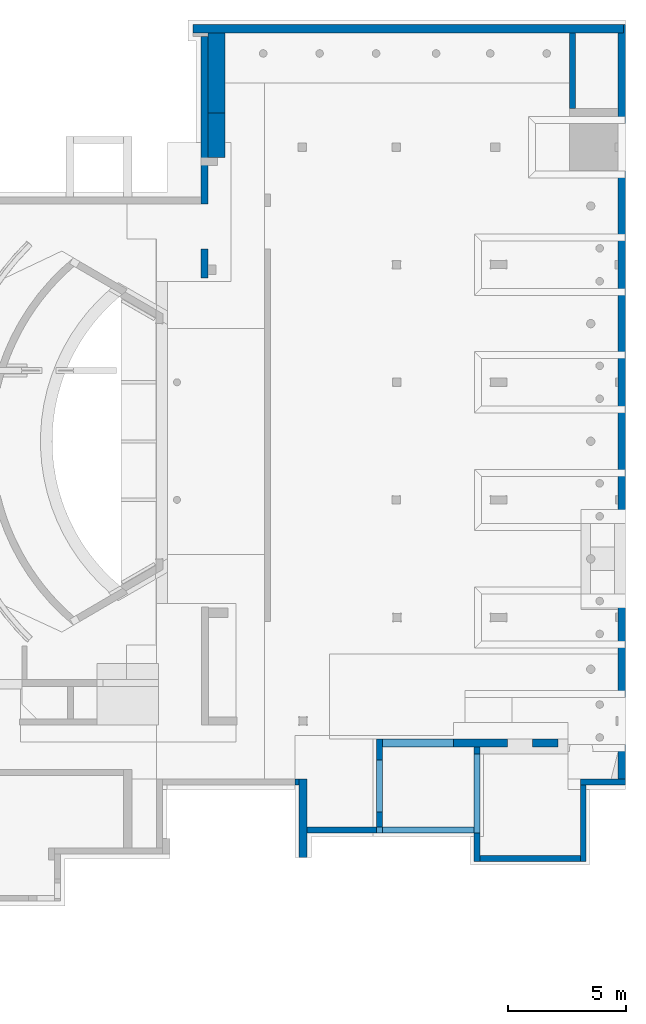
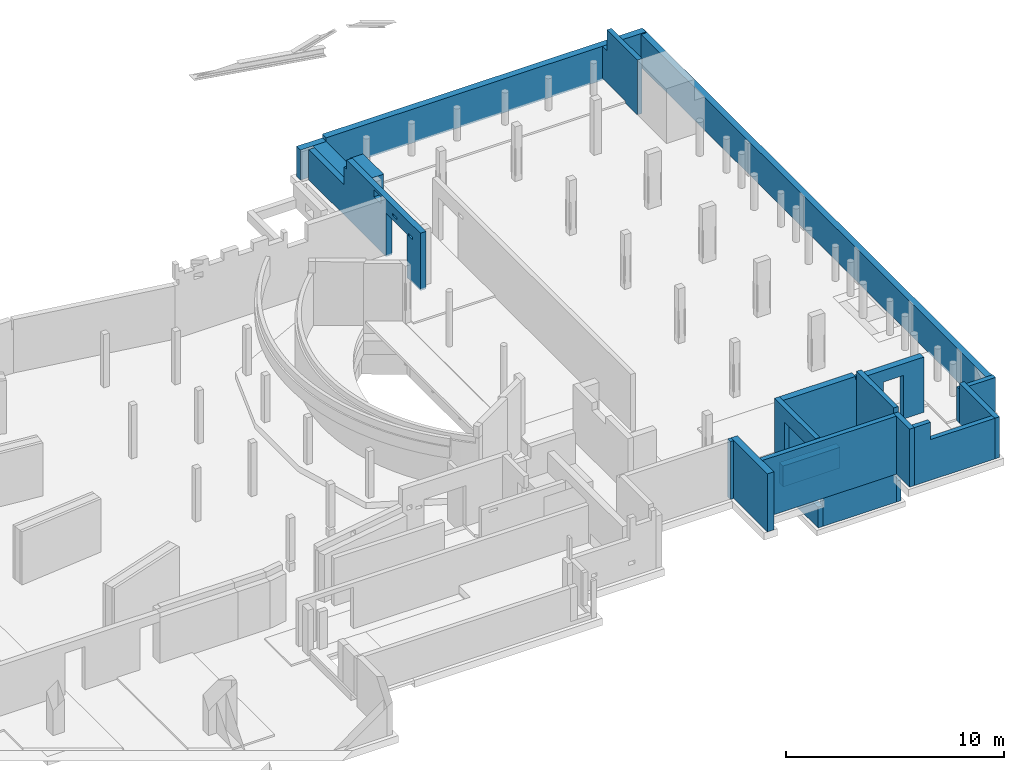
# One storey, part 35 of 42: 19 walls, 10 openings.
"""IFC2X3 building model written with IfcOpenShell, lengths in millimetres."""

from ifc_helpers import new_model, entity, si_unit, converted_unit, derived_unit, direction, frame, frame_2d, origin, place, context, subcontext, project, spatial, polyline, rectangle, outline, extrude, clip, bounded_halfspace, material, layer, layer_set, layer_usage, type_object, element, save


model = new_model("IFC2X3")

# Units and contexts
model_context = context("Model", 3, precision=0.01, world=origin(), true_north=direction((6.12303176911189e-17, 1.0)))
body_context = subcontext(model_context, "Body", "Model", "MODEL_VIEW")
ifc_project = project(units=[si_unit("LENGTHUNIT", "METRE", prefix="MILLI"), si_unit("AREAUNIT", "SQUARE_METRE", prefix="MILLI"), si_unit("VOLUMEUNIT", "CUBIC_METRE"), converted_unit("PLANEANGLEUNIT", "DEGREE", entity("IfcRatioMeasure", 0.0174532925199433), si_unit("PLANEANGLEUNIT", "RADIAN"), dimensions=[0, 0, 0, 0, 0, 0, 0]), si_unit("MASSUNIT", "GRAM", prefix="KILO"), derived_unit("MASSDENSITYUNIT", [(si_unit("MASSUNIT", "GRAM", prefix="KILO"), 1), (si_unit("LENGTHUNIT", "METRE"), -3)]), derived_unit("MOMENTOFINERTIAUNIT", [(si_unit("LENGTHUNIT", "METRE"), 4)]), si_unit("TIMEUNIT", "SECOND"), si_unit("FREQUENCYUNIT", "HERTZ"), si_unit("THERMODYNAMICTEMPERATUREUNIT", "DEGREE_CELSIUS"), derived_unit("THERMALTRANSMITTANCEUNIT", [(si_unit("MASSUNIT", "GRAM", prefix="KILO"), 1), (si_unit("THERMODYNAMICTEMPERATUREUNIT", "KELVIN"), -1), (si_unit("TIMEUNIT", "SECOND"), -3)]), derived_unit("VOLUMETRICFLOWRATEUNIT", [(si_unit("LENGTHUNIT", "METRE"), 3), (si_unit("TIMEUNIT", "SECOND"), -1)]), si_unit("ELECTRICCURRENTUNIT", "AMPERE"), si_unit("ELECTRICVOLTAGEUNIT", "VOLT"), si_unit("POWERUNIT", "WATT"), si_unit("FORCEUNIT", "NEWTON", prefix="KILO"), si_unit("ILLUMINANCEUNIT", "LUX"), si_unit("LUMINOUSFLUXUNIT", "LUMEN"), si_unit("LUMINOUSINTENSITYUNIT", "CANDELA"), derived_unit("USERDEFINED", [(si_unit("MASSUNIT", "GRAM", prefix="KILO"), -1), (si_unit("LENGTHUNIT", "METRE"), -2), (si_unit("TIMEUNIT", "SECOND"), 3), (si_unit("LUMINOUSFLUXUNIT", "LUMEN"), 1)]), derived_unit("LINEARVELOCITYUNIT", [(si_unit("LENGTHUNIT", "METRE"), 1), (si_unit("TIMEUNIT", "SECOND"), -1)]), si_unit("PRESSUREUNIT", "PASCAL"), derived_unit("USERDEFINED", [(si_unit("LENGTHUNIT", "METRE"), -2), (si_unit("MASSUNIT", "GRAM", prefix="KILO"), 1), (si_unit("TIMEUNIT", "SECOND"), -2)]), derived_unit("LINEARFORCEUNIT", [(si_unit("MASSUNIT", "GRAM", prefix="KILO"), 1), (si_unit("LENGTHUNIT", "METRE"), 1), (si_unit("TIMEUNIT", "SECOND"), -2), (si_unit("LENGTHUNIT", "METRE"), -1)]), derived_unit("PLANARFORCEUNIT", [(si_unit("MASSUNIT", "GRAM", prefix="KILO"), 1), (si_unit("LENGTHUNIT", "METRE"), 1), (si_unit("TIMEUNIT", "SECOND"), -2), (si_unit("LENGTHUNIT", "METRE"), -2)])], contexts=[model_context])

# Site, building, storey
site_placement = place(None, origin())
site = spatial("IfcSite", under=ifc_project, at=site_placement, Name="Theater aan de Parade", CompositionType="ELEMENT")
building_placement = place(site_placement, origin())
building = spatial("IfcBuilding", under=site, at=building_placement, Name="Theater aan de Parade", CompositionType="ELEMENT")
storey_placement = place(building_placement, frame((0.0, 0.0, -3300.0)))
storey = spatial("IfcBuildingStorey", under=building, at=storey_placement, Name="-1 kelder", CompositionType="ELEMENT", Elevation=-3300.0)

# Wall
ifc_material_1 = material(Name="00_PBT_MAT_beton t.p.g.")
ifc_layer_1 = layer(ifc_material_1, 320.0)
ifc_layer_set_1 = layer_set([ifc_layer_1], Name="Basic Wall:16_PBT_WA_beton t.p.g._d=320_bestaand")
ifc_layer_usage_1 = layer_usage(ifc_layer_set_1, "AXIS2", "POSITIVE", -160.0)
wall_type_1 = type_object("IfcWallType", Name="Basic Wall:16_PBT_WA_beton t.p.g._d=320_bestaand", PredefinedType="STANDARD", material=ifc_layer_set_1)
wall_1_placement = place(storey_placement, frame((88520.0, 18105.0, 660.0), z_axis=(0.0, 0.0, 1.0), x_axis=(0.0, 1.0, 0.0)))
element("IfcWallStandardCase", 1, at=wall_1_placement, inside=storey, type_object=wall_type_1, material=ifc_layer_usage_1, Name="Basic Wall:16_PBT_WA_beton t.p.g._d=320_bestaand", ObjectType="Basic Wall:16_PBT_WA_beton t.p.g._d=320_bestaand", context=body_context, shape_type="Clipping", body=[
    clip(clip(extrude(rectangle(XDim=32065.0000000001, YDim=319.999999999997, at=frame_2d((16032.5, -2.06057393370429e-12), x_axis=(-1.0, 0.0))), origin(), (0.0, 0.0, 1.0), 1840.0), bounded_halfspace(frame((31715.0, -90.0, 1840.0), z_axis=(-1.0, 0.0, 0.0), x_axis=(0.0, -1.0, 0.0)), True, frame((31715.0, -90.0, 1840.0), z_axis=(-1.0, 0.0, 0.0), x_axis=(0.0, -1.0, 0.0)), polyline([(0.0, 0.0), (-250.0, 0.0), (-250.0, -1840.0), (0.0, -1840.0), (0.0, 0.0)]))), bounded_halfspace(frame((31715.0, -90.0, 0.0), z_axis=(0.0, -1.0, 0.0), x_axis=(1.0, 0.0, 0.0)), True, frame((31715.0, -90.0, 0.0), z_axis=(0.0, -1.0, 0.0), x_axis=(1.0, 0.0, 0.0)), polyline([(0.0, 0.0), (350.0, 0.0), (350.0, 1840.0), (280.0, 1840.0), (0.0, 1840.0), (0.0, 0.0)]))),
])

# Wall, openings
ifc_layer_2 = layer(ifc_material_1, 300.0)
ifc_layer_set_2 = layer_set([ifc_layer_2], Name="Basic Wall:16_PBT_WA_beton t.p.g._d=300_bestaand")
ifc_layer_usage_2 = layer_usage(ifc_layer_set_2, "AXIS2", "NEGATIVE", 150.0)
wall_type_2 = type_object("IfcWallType", Name="Basic Wall:16_PBT_WA_beton t.p.g._d=300_bestaand", PredefinedType="STANDARD", material=ifc_layer_set_2)
wall_2_placement = place(storey_placement, frame((70790.0, 49670.0, 660.0), z_axis=(0.0, 0.0, 1.0), x_axis=(0.0, -1.0, 0.0)))
wall_2 = element("IfcWallStandardCase", 2, at=wall_2_placement, inside=storey, type_object=wall_type_2, material=ifc_layer_usage_2, Name="Basic Wall:16_PBT_WA_beton t.p.g._d=300_bestaand", ObjectType="Basic Wall:16_PBT_WA_beton t.p.g._d=300_bestaand", context=body_context, shape_type="SweptSolid", body=[
    extrude(rectangle(XDim=10260.0, YDim=300.000000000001, at=frame_2d((5129.99999999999, 2.54374299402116e-12), x_axis=(-1.0, 0.0))), origin(), (0.0, 0.0, 1.0), 3220.0),
])
opening_1_placement = place(wall_2_placement, origin())
element("IfcOpeningElement", 3, at=opening_1_placement, cuts=wall_2, Name="Basic Wall:16_PBT_WA_beton t.p.g._d=300_bestaand", ObjectType="Opening", context=body_context, shape_type="SweptSolid", body=[
    extrude(rectangle(XDim=149.999999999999, YDim=400.000000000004, at=frame_2d((4.33431068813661e-12, 0.0), x_axis=(0.0, 1.0))), frame((9360.0, 150.0, 2495.0), z_axis=(0.0, -1.0, 0.0), x_axis=(1.0, 0.0, 0.0)), (0.0, 0.0, 1.0), 300.0),
])
opening_2_placement = place(wall_2_placement, origin())
element("IfcOpeningElement", 4, at=opening_2_placement, cuts=wall_2, Name="Basic Wall:16_PBT_WA_beton t.p.g._d=300_bestaand", ObjectType="Opening", context=body_context, shape_type="SweptSolid", body=[
    extrude(rectangle(XDim=400.0, YDim=674.999999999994, at=frame_2d((-4.34852154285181e-12, 0.0), x_axis=(0.0, 1.0))), frame((6332.49999999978, 150.0, 2877.45386150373), z_axis=(0.0, -1.0, 0.0), x_axis=(1.0, 0.0, 0.0)), (0.0, 0.0, 1.0), 300.0),
])
opening_3_placement = place(wall_2_placement, origin())
element("IfcOpeningElement", 5, at=opening_3_placement, cuts=wall_2, Name="Basic Wall:16_PBT_WA_beton t.p.g._d=300_bestaand", ObjectType="Opening", context=body_context, shape_type="SweptSolid", body=[
    extrude(rectangle(XDim=100.0, YDim=399.999999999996, at=frame_2d((0.0, 0.0), x_axis=(0.0, 1.0))), frame((7909.15767369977, 150.0, 2736.36914879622), z_axis=(0.0, -1.0, 0.0), x_axis=(1.0, 0.0, 0.0)), (0.0, 0.0, 1.0), 300.0),
])
opening_4_placement = place(wall_2_placement, origin())
element("IfcOpeningElement", 6, at=opening_4_placement, cuts=wall_2, Name="Basic Wall:16_PBT_WA_beton t.p.g._d=300_bestaand", ObjectType="Opening", context=body_context, shape_type="SweptSolid", body=[
    extrude(outline(polyline([(-1242.70921977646, -687.666666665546), (2250.41843955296, -687.666666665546), (2250.41843955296, 842.333333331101), (-1007.70921977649, 842.333333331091), (-1007.70921977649, -154.66666666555), (-1242.70921977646, -154.66666666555), (-1242.70921977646, -687.666666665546)])), frame((2250.41843955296, 150.0, 2532.33333333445), z_axis=(0.0, -1.0, 0.0), x_axis=(-1.0, 0.0, 0.0)), (0.0, 0.0, 1.0), 300.0),
])
opening_5_placement = place(wall_2_placement, origin())
element("IfcOpeningElement", 7, at=opening_5_placement, cuts=wall_2, Name="Basic Wall:16_PBT_WA_beton t.p.g._d=300_bestaand", ObjectType="Opening", context=body_context, shape_type="SweptSolid", body=[
    extrude(rectangle(XDim=2427.0, YDim=1909.15767369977, at=frame_2d((0.0, 7.95807864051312e-13), x_axis=(0.0, 1.0))), frame((8074.5788368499, 150.0, 1213.5), z_axis=(0.0, -1.0, 0.0), x_axis=(1.0, 0.0, 0.0)), (0.0, 0.0, 1.0), 300.0),
])

# Wall, opening
ifc_material_2 = material(Name="00_PBT_MAT_beton t.p.g._C30/37")
ifc_layer_3 = layer(ifc_material_2, 250.0)
ifc_layer_set_3 = layer_set([ifc_layer_3], Name="Basic Wall:28_PBT_WA_beton t.p.g._d=250_C30/37")
ifc_layer_usage_3 = layer_usage(ifc_layer_set_3, "AXIS2", "POSITIVE", -125.0)
wall_type_3 = type_object("IfcWallType", Name="Basic Wall:28_PBT_WA_beton t.p.g._d=250_C30/37", PredefinedType="STANDARD", material=ifc_layer_set_3)
wall_3_placement = place(storey_placement, frame((78225.1000324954, 16060.0, 630.0), z_axis=(0.0, 0.0, 1.0), x_axis=(0.0, 1.0, 0.0)))
wall_3 = element("IfcWallStandardCase", 8, at=wall_3_placement, inside=storey, type_object=wall_type_3, material=ifc_layer_usage_3, Name="Basic Wall:28_PBT_WA_beton t.p.g._d=250_C30/37", ObjectType="Basic Wall:28_PBT_WA_beton t.p.g._d=250_C30/37", context=body_context, shape_type="Clipping", body=[
    clip(extrude(rectangle(XDim=3750.00024352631, YDim=250.000000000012, at=frame_2d((1875.00012176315, 0.0), x_axis=(-1.0, 0.0))), origin(), (0.0, 0.0, 1.0), 3280.00000000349), bounded_halfspace(frame((3750.0002435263, 125.0, 3280.0), z_axis=(0.0, 0.0, -1.0), x_axis=(1.0, 0.0, 0.0)), True, frame((3750.0002435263, 125.0, 3280.0)), polyline([(0.0, 0.0), (-3750.0002435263, 0.0), (-3750.0002435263, -250.0), (-350.0, -250.0), (0.0, -250.0), (0.0, 0.0)]))),
])
opening_6_placement = place(wall_3_placement, origin())
element("IfcOpeningElement", 9, at=opening_6_placement, cuts=wall_3, Name="Basic Wall:28_PBT_WA_beton t.p.g._d=250_C30/37", ObjectType="Opening", context=body_context, shape_type="SweptSolid", body=[
    extrude(rectangle(XDim=2489.99999999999, YDim=2200.0, at=frame_2d((1.13686837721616e-12, 0.0), x_axis=(0.0, 1.0))), frame((1749.99609547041, -125.0, 1245.0), z_axis=(0.0, 1.0, 0.0), x_axis=(1.0, 0.0, 0.0)), (0.0, 0.0, 1.0), 250.000000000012),
])

# Walls
ifc_layer_usage_4 = layer_usage(ifc_layer_set_3, "AXIS2", "NEGATIVE", 125.0)
wall_4_placement = place(storey_placement, frame((86430.1683175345, 49820.0, 660.0), z_axis=(0.0, 0.0, 1.0), x_axis=(0.0, -1.0, 0.0)))
element("IfcWallStandardCase", 10, at=wall_4_placement, inside=storey, type_object=wall_type_3, material=ifc_layer_usage_4, Name="Basic Wall:28_PBT_WA_beton t.p.g._d=250_C30/37", ObjectType="Basic Wall:28_PBT_WA_beton t.p.g._d=250_C30/37", context=body_context, shape_type="Clipping", body=[
    clip(clip(clip(clip(clip(extrude(rectangle(XDim=3208.12765932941, YDim=250.000000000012, at=frame_2d((1604.0638296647, 2.62190269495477e-12), x_axis=(-1.0, 0.0))), origin(), (0.0, 0.0, 1.0), 3070.00000000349), bounded_halfspace(frame((408.0, -125.0, 3070.0), z_axis=(0.0, 0.0, -1.0), x_axis=(0.0, 1.0, 0.0)), True, frame((408.0, -125.0, 3070.0)), polyline([(0.0, 0.0), (715.0, 0.0), (2800.12765932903, 0.0), (2800.12765932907, 250.0), (0.0, 250.0), (0.0, 0.0)]))), bounded_halfspace(frame((0.0, -125.0, 1900.0), z_axis=(0.0, 0.0, -1.0), x_axis=(0.0, 1.0, 0.0)), True, frame((0.0, -125.0, 1900.0)), polyline([(0.0, 0.0), (408.0, 0.0), (408.0, 250.0), (0.0, 250.0), (0.0, 0.0)]))), bounded_halfspace(frame((3208.12765932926, -125.0, 3070.0), z_axis=(-1.0, 0.0, 0.0), x_axis=(0.0, -1.0, 0.0)), True, frame((3208.12765932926, -125.0, 3070.0), z_axis=(-1.0, 0.0, 0.0), x_axis=(0.0, -1.0, 0.0)), polyline([(0.0, 0.0), (-250.0, 0.0), (-250.0, -720.0), (-250.0, -1170.0), (-250.0, -3070.0), (0.0, -3070.0), (0.0, 0.0)]))), bounded_halfspace(frame((2123.0, 125.0, 100.0), z_axis=(0.0, 0.0, 1.0), x_axis=(-1.0, 0.0, 0.0)), True, frame((2123.0, 125.0, 100.0), z_axis=(0.0, 0.0, 1.0), x_axis=(-1.0, 0.0, 0.0)), polyline([(0.0, 0.0), (2123.0, 0.0), (2123.0, 250.0), (0.0, 250.0), (0.0, 0.0)]))), bounded_halfspace(frame((2123.0, -125.0, 100.0), z_axis=(1.0, 0.0, 0.0), x_axis=(0.0, 0.0, 1.0)), True, frame((2123.0, -125.0, 100.0), z_axis=(1.0, 0.0, 0.0), x_axis=(0.0, 0.0, 1.0)), polyline([(0.0, 0.0), (-100.0, 0.0), (-100.0, -250.0), (0.0, -250.0), (0.0, 0.0)]))),
])
ifc_layer_4 = layer(ifc_material_2, 250.0)
ifc_layer_set_4 = layer_set([ifc_layer_4], Name="Basic Wall:16_PBT_WA_beton t.p.g._d=250_C30/37")
ifc_layer_usage_5 = layer_usage(ifc_layer_set_4, "AXIS2", "POSITIVE", -125.0)
wall_type_4 = type_object("IfcWallType", Name="Basic Wall:16_PBT_WA_beton t.p.g._d=250_C30/37", PredefinedType="STANDARD", material=ifc_layer_set_4)
wall_5_placement = place(storey_placement, frame((78225.1000324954, 15810.0, -940.0), z_axis=(0.0, 0.0, 1.0), x_axis=(0.0, 1.0, 0.0)))
element("IfcWallStandardCase", 11, at=wall_5_placement, inside=storey, type_object=wall_type_4, material=ifc_layer_usage_5, Name="Basic Wall:16_PBT_WA_beton t.p.g._d=250_C30/37", ObjectType="Basic Wall:16_PBT_WA_beton t.p.g._d=250_C30/37", context=body_context, shape_type="SweptSolid", body=[
    extrude(rectangle(XDim=4000.00024352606, YDim=250.000000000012, at=frame_2d((2000.00012176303, 0.0), x_axis=(-1.0, 0.0))), origin(), (0.0, 0.0, 1.0), 1170.0),
])
ifc_layer_usage_6 = layer_usage(ifc_layer_set_4, "AXIS2", "NEGATIVE", 125.0)
wall_6_placement = place(storey_placement, frame((78350.1000324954, 15935.0, -940.0)))
element("IfcWallStandardCase", 12, at=wall_6_placement, inside=storey, type_object=wall_type_4, material=ifc_layer_usage_6, Name="Basic Wall:16_PBT_WA_beton t.p.g._d=250_C30/37", ObjectType="Basic Wall:16_PBT_WA_beton t.p.g._d=250_C30/37", context=body_context, shape_type="SweptSolid", body=[
    extrude(rectangle(XDim=3899.90838921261, YDim=249.999999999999, at=frame_2d((1949.9541946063, -2.41584530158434e-13), x_axis=(-1.0, 0.0))), origin(), (0.0, 0.0, 1.0), 1570.0),
])
ifc_layer_usage_7 = layer_usage(ifc_layer_set_4, "AXIS2", "POSITIVE", -125.0)
wall_7_placement = place(storey_placement, frame((82375.0084217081, 19160.0002435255, -940.0), z_axis=(0.0, 0.0, 1.0), x_axis=(0.0, -1.0, 0.0)))
element("IfcWallStandardCase", 13, at=wall_7_placement, inside=storey, type_object=wall_type_4, material=ifc_layer_usage_7, Name="Basic Wall:16_PBT_WA_beton t.p.g._d=250_C30/37", ObjectType="Basic Wall:16_PBT_WA_beton t.p.g._d=250_C30/37", context=body_context, shape_type="Clipping", body=[
    clip(extrude(rectangle(XDim=3350.00024352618, YDim=250.000000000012, at=frame_2d((1675.00012176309, -8.38440428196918e-13), x_axis=(-1.0, 0.0))), origin(), (0.0, 0.0, 1.0), 1170.0), bounded_halfspace(frame((0.0, -125.0, 0.0), z_axis=(1.0, 0.0, 0.0), x_axis=(0.0, 0.0, 1.0)), True, frame((0.0, -125.0, 0.0), z_axis=(1.0, 0.0, 0.0), x_axis=(0.0, 0.0, 1.0)), polyline([(0.0, 0.0), (0.0, -250.0), (1170.0, -250.0), (1170.0, 0.0), (0.0, 0.0)]))),
])
ifc_layer_usage_8 = layer_usage(ifc_layer_set_4, "AXIS2", "NEGATIVE", 125.0)
wall_8_placement = place(storey_placement, frame((75150.0, 15935.0, 630.0)))
element("IfcWallStandardCase", 14, at=wall_8_placement, inside=storey, type_object=wall_type_4, material=ifc_layer_usage_8, Name="Basic Wall:16_PBT_WA_beton t.p.g._d=250_C30/37", ObjectType="Basic Wall:16_PBT_WA_beton t.p.g._d=250_C30/37", context=body_context, shape_type="SweptSolid", body=[
    extrude(rectangle(XDim=7100.00842170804, YDim=249.999999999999, at=frame_2d((3550.00421085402, 5.6843418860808e-13), x_axis=(-1.0, 0.0))), origin(), (0.0, 0.0, 1.0), 3250.00000000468),
])
ifc_layer_usage_9 = layer_usage(ifc_layer_set_4, "AXIS2", "POSITIVE", -125.0)
wall_9_placement = place(storey_placement, frame((82375.0084217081, 19460.0002435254, 630.0), z_axis=(0.0, 0.0, 1.0), x_axis=(0.0, -1.0, 0.0)))
element("IfcWallStandardCase", 15, at=wall_9_placement, inside=storey, type_object=wall_type_4, material=ifc_layer_usage_9, Name="Basic Wall:16_PBT_WA_beton t.p.g._d=250_C30/37", ObjectType="Basic Wall:16_PBT_WA_beton t.p.g._d=250_C30/37", context=body_context, shape_type="Clipping", body=[
    clip(clip(clip(extrude(rectangle(XDim=4860.0002435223, YDim=250.000000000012, at=frame_2d((2430.00012176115, -3.77298192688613e-12), x_axis=(-1.0, 0.0))), origin(), (0.0, 0.0, 1.0), 3550.00000000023), bounded_halfspace(frame((4860.0002435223, -125.0, 3250.0), z_axis=(0.0, 0.0, -1.0), x_axis=(-1.0, 0.0, 0.0)), True, frame((4860.0002435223, -125.0, 3250.0)), polyline([(0.0, 0.0), (0.0, 250.0), (-250.0, 250.0), (-1460.0, 250.0), (-1460.0, 0.0), (-1210.0, 0.0), (0.0, 0.0)]))), bounded_halfspace(frame((0.0, -125.0, 3550.0), z_axis=(0.0, 0.0, -1.0), x_axis=(0.0, 1.0, 0.0)), True, frame((0.0, -125.0, 3550.0)), polyline([(0.0, 0.0), (3400.00024352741, 0.0), (3400.0002435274, 250.0), (0.0, 250.0), (0.0, 0.0)]))), bounded_halfspace(frame((4860.0002435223, -125.0, 3250.0), z_axis=(0.0, 0.0, -1.0), x_axis=(-1.0, 0.0, 0.0)), True, frame((4860.0002435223, -125.0, 3250.0)), polyline([(0.0, 0.0), (0.0, 250.0), (-250.0, 250.0), (-1460.0, 250.0), (-1460.0, 0.0), (-1210.0, 0.0), (0.0, 0.0)]))),
])
ifc_layer_usage_10 = layer_usage(ifc_layer_set_4, "AXIS2", "NEGATIVE", 125.0)
wall_10_placement = place(storey_placement, frame((86891.0, 17855.0, 630.0), z_axis=(0.0, 0.0, 1.0), x_axis=(0.0, -1.0, 0.0)))
element("IfcWallStandardCase", 16, at=wall_10_placement, inside=storey, type_object=wall_type_4, material=ifc_layer_usage_10, Name="Basic Wall:16_PBT_WA_beton t.p.g._d=250_C30/37", ObjectType="Basic Wall:16_PBT_WA_beton t.p.g._d=250_C30/37", context=body_context, shape_type="SweptSolid", body=[
    extrude(rectangle(XDim=3254.99999999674, YDim=250.000000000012, at=frame_2d((1627.49999999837, 2.28084218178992e-12), x_axis=(-1.0, 0.0))), origin(), (0.0, 0.0, 1.0), 2280.00000000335),
])

# Wall, openings
ifc_layer_usage_11 = layer_usage(ifc_layer_set_4, "AXIS2", "NEGATIVE", 125.0)
wall_11_placement = place(storey_placement, frame((82500.0084217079, 14725.0, 630.0)))
wall_11 = element("IfcWallStandardCase", 17, at=wall_11_placement, inside=storey, type_object=wall_type_4, material=ifc_layer_usage_11, Name="Basic Wall:16_PBT_WA_beton t.p.g._d=250_C30/37", ObjectType="Basic Wall:16_PBT_WA_beton t.p.g._d=250_C30/37", context=body_context, shape_type="SweptSolid", body=[
    extrude(rectangle(XDim=4265.99157829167, YDim=249.999999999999, at=frame_2d((2132.99578914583, 5.54223333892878e-13), x_axis=(-1.0, 0.0))), origin(), (0.0, 0.0, 1.0), 3250.00000000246),
])
opening_7_placement = place(wall_11_placement, origin())
element("IfcOpeningElement", 18, at=opening_7_placement, cuts=wall_11, Name="Basic Wall:16_PBT_WA_beton t.p.g._d=250_C30/37", ObjectType="Opening", context=body_context, shape_type="SweptSolid", body=[
    extrude(rectangle(XDim=2599.99999999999, YDim=250.000000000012, at=frame_2d((8.66151594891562e-12, 0.0), x_axis=(0.0, 1.0))), frame((4390.99157828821, 125.0, 3920.0), z_axis=(0.0, 1.0, 0.0), x_axis=(-1.0, 0.0, 0.0)), (0.0, 0.0, 1.0), 995.000000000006),
])
opening_8_placement = place(wall_11_placement, origin())
element("IfcOpeningElement", 19, at=opening_8_placement, cuts=wall_11, Name="Basic Wall:16_PBT_WA_beton t.p.g._d=250_C30/37", ObjectType="Opening", context=body_context, shape_type="SweptSolid", body=[
    extrude(rectangle(XDim=969.999999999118, YDim=3538.49999999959, at=frame_2d((-2.8421709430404e-12, 0.0), x_axis=(1.0, 0.0))), frame((2621.74157829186, 125.0, 2765.0), z_axis=(0.0, -1.0, 0.0), x_axis=(0.0, 0.0, 1.0)), (0.0, 0.0, 1.0), 250.0),
])

# Walls
ifc_layer_usage_12 = layer_usage(ifc_layer_set_4, "AXIS2", "POSITIVE", -125.0)
wall_12_placement = place(storey_placement, frame((74800.0, 17980.0, 630.0), z_axis=(0.0, 0.0, 1.0), x_axis=(-1.0, 0.0, 0.0)))
element("IfcWallStandardCase", 20, at=wall_12_placement, inside=storey, type_object=wall_type_4, material=ifc_layer_usage_12, Name="Basic Wall:16_PBT_WA_beton t.p.g._d=250_C30/37", ObjectType="Basic Wall:16_PBT_WA_beton t.p.g._d=250_C30/37", context=body_context, shape_type="SweptSolid", body=[
    extrude(rectangle(XDim=166.425983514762, YDim=249.999999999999, at=frame_2d((83.2129917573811, -8.5265128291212e-13), x_axis=(-1.0, 0.0))), origin(), (0.0, 0.0, 1.0), 3250.0),
])
ifc_layer_usage_13 = layer_usage(ifc_layer_set_4, "AXIS2", "POSITIVE", -125.0)
wall_13_placement = place(storey_placement, frame((86765.8589695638, 17980.0, 660.0)))
element("IfcWallStandardCase", 21, at=wall_13_placement, inside=storey, type_object=wall_type_4, material=ifc_layer_usage_13, Name="Basic Wall:16_PBT_WA_beton t.p.g._d=250_C30/37", ObjectType="Basic Wall:16_PBT_WA_beton t.p.g._d=250_C30/37", context=body_context, shape_type="SweptSolid", body=[
    extrude(rectangle(XDim=1914.14103043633, YDim=249.999999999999, at=frame_2d((957.070515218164, -3.69482222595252e-13), x_axis=(-1.0, 0.0))), origin(), (0.0, 0.0, 1.0), 1900.00000000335),
])
ifc_layer_5 = layer(ifc_material_2, 350.0)
ifc_layer_set_5 = layer_set([ifc_layer_5], Name="Basic Wall:16_PBT_WA_beton t.p.g._d=350_C30/37")
ifc_layer_usage_14 = layer_usage(ifc_layer_set_5, "AXIS2", "NEGATIVE", 175.0)
wall_type_5 = type_object("IfcWallType", Name="Basic Wall:16_PBT_WA_beton t.p.g._d=350_C30/37", PredefinedType="STANDARD", material=ifc_layer_set_5)
wall_14_placement = place(storey_placement, frame((81370.0, 19635.0002435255, -940.0), z_axis=(0.0, 0.0, 1.0), x_axis=(-1.0, 0.0, 0.0)))
element("IfcWallStandardCase", 22, at=wall_14_placement, inside=storey, type_object=wall_type_5, material=ifc_layer_usage_14, Name="Basic Wall:16_PBT_WA_beton t.p.g._d=350_C30/37", ObjectType="Basic Wall:16_PBT_WA_beton t.p.g._d=350_C30/37", context=body_context, shape_type="SweptSolid", body=[
    extrude(rectangle(XDim=3019.89996750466, YDim=349.999999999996, at=frame_2d((0.0, -1.08002495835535e-12), x_axis=(1.0, 0.0))), frame((1509.94998375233, 0.0, 0.0), z_axis=(0.0, 0.0, 1.0), x_axis=(-1.0, 0.0, 0.0)), (0.0, 0.0, 1.0), 1170.0),
])
ifc_layer_usage_15 = layer_usage(ifc_layer_set_5, "AXIS2", "POSITIVE", -175.0)
wall_15_placement = place(storey_placement, frame((74975.0, 14760.0, 630.0), z_axis=(0.0, 0.0, 1.0), x_axis=(0.0, 1.0, 0.0)))
element("IfcWallStandardCase", 23, at=wall_15_placement, inside=storey, type_object=wall_type_5, material=ifc_layer_usage_15, Name="Basic Wall:16_PBT_WA_beton t.p.g._d=350_C30/37", ObjectType="Basic Wall:16_PBT_WA_beton t.p.g._d=350_C30/37", context=body_context, shape_type="SweptSolid", body=[
    extrude(rectangle(XDim=3345.00000000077, YDim=350.000000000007, at=frame_2d((1672.50000000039, 0.0), x_axis=(-1.0, 0.0))), origin(), (0.0, 0.0, 1.0), 3250.00000000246),
])

# Wall, opening
ifc_layer_6 = layer(ifc_material_2, 350.0)
ifc_layer_set_6 = layer_set([ifc_layer_6], Name="Basic Wall:28_PBT_WA_beton t.p.g._d=350_C30/37")
ifc_layer_usage_16 = layer_usage(ifc_layer_set_6, "AXIS2", "POSITIVE", -175.0)
wall_type_6 = type_object("IfcWallType", Name="Basic Wall:28_PBT_WA_beton t.p.g._d=350_C30/37", PredefinedType="STANDARD", material=ifc_layer_set_6)
wall_16_placement = place(storey_placement, frame((78350.1000324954, 19635.0002435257, 630.0)))
wall_16 = element("IfcWallStandardCase", 24, at=wall_16_placement, inside=storey, type_object=wall_type_6, material=ifc_layer_usage_16, Name="Basic Wall:28_PBT_WA_beton t.p.g._d=350_C30/37", ObjectType="Basic Wall:28_PBT_WA_beton t.p.g._d=350_C30/37", context=body_context, shape_type="Clipping", body=[
    clip(clip(clip(extrude(rectangle(XDim=7465.90086186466, YDim=349.999999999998, at=frame_2d((3732.95043093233, 2.55795384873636e-13), x_axis=(-1.0, 0.0))), origin(), (0.0, 0.0, 1.0), 3280.00000000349), bounded_halfspace(frame((0.0, -175.0, 3280.0), z_axis=(0.0, 0.0, -1.0), x_axis=(0.0, 1.0, 0.0)), True, frame((0.0, -175.0, 3280.0)), polyline([(0.0, 0.0), (3849.89996750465, 0.0), (3849.89996750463, 350.0), (0.0, 350.0), (0.0, 0.0)]))), bounded_halfspace(frame((3849.89996750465, 175.0, 3100.0), z_axis=(0.0, 0.0, -1.0), x_axis=(1.0, 0.0, 0.0)), True, frame((3849.89996750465, 175.0, 3100.0), z_axis=(0.0, 0.0, -1.0), x_axis=(1.0, 0.0, 0.0)), polyline([(0.0, 0.0), (3616.00089436, 0.0), (3616.00089435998, 350.0), (0.0, 350.0), (0.0, 0.0)]))), bounded_halfspace(frame((3849.89996750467, -175.0, 3100.0), z_axis=(-1.0, 0.0, 0.0), x_axis=(0.0, 0.0, 1.0)), True, frame((3849.89996750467, -175.0, 3100.0), z_axis=(-1.0, 0.0, 0.0), x_axis=(0.0, 0.0, 1.0)), polyline([(0.0, 0.0), (180.0, 0.0), (180.0, 350.0), (0.0, 350.0), (0.0, 0.0)]))),
])
opening_9_placement = place(wall_16_placement, origin())
element("IfcOpeningElement", 25, at=opening_9_placement, cuts=wall_16, Name="Basic Wall:28_PBT_WA_beton t.p.g._d=350_C30/37", ObjectType="Opening", context=body_context, shape_type="SweptSolid", body=[
    extrude(rectangle(XDim=2449.99999999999, YDim=1054.0, at=frame_2d((0.0, 0.0), x_axis=(0.0, 1.0))), frame((5858.90086186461, -175.0, 1225.0), z_axis=(0.0, 1.0, 0.0), x_axis=(1.0, 0.0, 0.0)), (0.0, 0.0, 1.0), 349.999999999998),
])

ifc_layer_7 = layer(ifc_material_1, 350.0)
ifc_layer_set_7 = layer_set([ifc_layer_7], Name="Basic Wall:16_PBT_WA_beton t.p.g._d=350_bestaand")
ifc_layer_usage_17 = layer_usage(ifc_layer_set_7, "AXIS2", "NEGATIVE", 175.0)
wall_type_7 = type_object("IfcWallType", Name="Basic Wall:16_PBT_WA_beton t.p.g._d=350_bestaand", PredefinedType="STANDARD", material=ifc_layer_set_7)
wall_17_placement = place(storey_placement, frame((70300.0, 49995.0, 660.0)))
wall_17 = element("IfcWallStandardCase", 26, at=wall_17_placement, inside=storey, type_object=wall_type_7, material=ifc_layer_usage_17, Name="Basic Wall:16_PBT_WA_beton t.p.g._d=350_bestaand", ObjectType="Basic Wall:16_PBT_WA_beton t.p.g._d=350_bestaand", context=body_context, shape_type="SweptSolid", body=[
    extrude(rectangle(XDim=18310.0000000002, YDim=350.000000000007, at=frame_2d((9155.00000000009, 1.10844666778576e-12), x_axis=(-1.0, 0.0))), origin(), (0.0, 0.0, 1.0), 1900.00000000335),
])
opening_10_placement = place(wall_17_placement, origin())
element("IfcOpeningElement", 27, at=opening_10_placement, cuts=wall_17, Name="Basic Wall:16_PBT_WA_beton t.p.g._d=350_bestaand", ObjectType="Opening", context=body_context, shape_type="SweptSolid", body=[
    extrude(rectangle(XDim=210.0, YDim=1357.00000000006, at=frame_2d((0.0, 1.08713038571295e-12), x_axis=(0.0, 1.0))), frame((678.500000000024, 175.0, 1795.0), z_axis=(0.0, -1.0, 0.0), x_axis=(-1.0, 0.0, 0.0)), (0.0, 0.0, 1.0), 350.0),
])

# Walls
ifc_layer_8 = layer(ifc_material_2, 717.0)
ifc_layer_set_8 = layer_set([ifc_layer_8], Name="Basic Wall:28_PBT_WA_beton t.p.g._d=717_C30/37")
ifc_layer_usage_18 = layer_usage(ifc_layer_set_8, "AXIS2", "NEGATIVE", 358.5)
wall_type_8 = type_object("IfcWallType", Name="Basic Wall:28_PBT_WA_beton t.p.g._d=717_C30/37", PredefinedType="STANDARD", material=ifc_layer_set_8)
wall_18_placement = place(storey_placement, frame((71298.5000000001, 44535.0018061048, 660.0), z_axis=(0.0, 0.0, 1.0), x_axis=(0.0, 1.0, 0.0)))
element("IfcWallStandardCase", 28, at=wall_18_placement, inside=storey, type_object=wall_type_8, material=ifc_layer_usage_18, Name="Basic Wall:28_PBT_WA_beton t.p.g._d=717_C30/37", ObjectType="Basic Wall:28_PBT_WA_beton t.p.g._d=717_C30/37", context=body_context, shape_type="SweptSolid", body=[
    extrude(rectangle(XDim=1876.87053456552, YDim=716.999999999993, at=frame_2d((938.435267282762, -2.1600499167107e-12), x_axis=(-1.0, 0.0))), origin(), (0.0, 0.0, 1.0), 3070.00000000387),
])
ifc_layer_usage_19 = layer_usage(ifc_layer_set_8, "AXIS2", "NEGATIVE", 358.5)
wall_19_placement = place(storey_placement, frame((71298.5000000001, 46411.8723406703, 660.0), z_axis=(0.0, 0.0, 1.0), x_axis=(0.0, 1.0, 0.0)))
element("IfcWallStandardCase", 29, at=wall_19_placement, inside=storey, type_object=wall_type_8, material=ifc_layer_usage_19, Name="Basic Wall:28_PBT_WA_beton t.p.g._d=717_C30/37", ObjectType="Basic Wall:28_PBT_WA_beton t.p.g._d=717_C30/37", context=body_context, shape_type="Clipping", body=[
    clip(extrude(rectangle(XDim=3408.1276593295, YDim=716.999999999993, at=frame_2d((1704.06382966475, -3.69482222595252e-13), x_axis=(-1.0, 0.0))), origin(), (0.0, 0.0, 1.0), 1690.00000000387), bounded_halfspace(frame((0.0, -358.500000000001, 1690.0), z_axis=(0.0, 0.0, -1.0), x_axis=(0.0, 1.0, 0.0)), True, frame((0.0, -358.500000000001, 1690.0), z_axis=(0.0, 0.0, -1.0), x_axis=(0.0, 1.0, 0.0)), polyline([(0.0, 0.0), (717.0, 0.0), (717.0, 3258.12765932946), (717.0, 3408.1276593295), (0.0, 3408.1276593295), (0.0, 0.0)]))),
])

save(model, "model.ifc")
